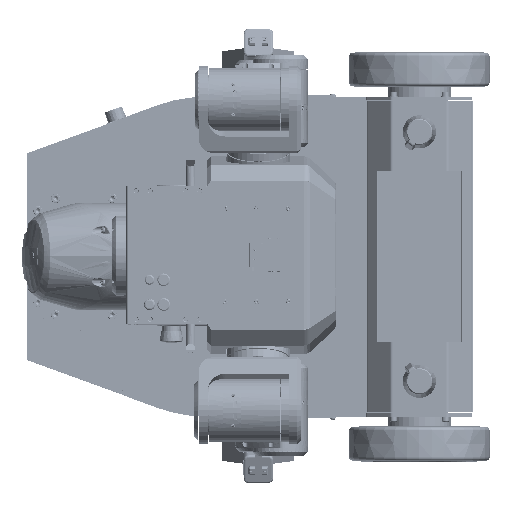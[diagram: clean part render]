
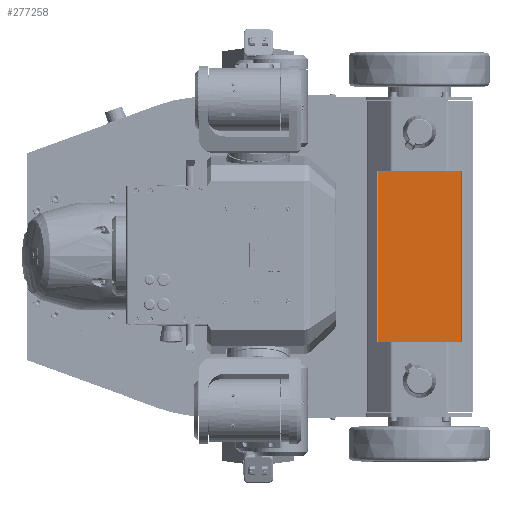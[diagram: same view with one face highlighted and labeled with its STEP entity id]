
A CAD part, top view. The second image highlights one B-rep face of the part: STEP entity #277258.
In plain terms, the highlighted planar face has unit normal (0, 0, 1).
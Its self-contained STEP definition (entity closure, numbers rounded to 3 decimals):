
#12331=PLANE('',#296740);
#22860=FACE_OUTER_BOUND('',#39108,.T.);
#39108=EDGE_LOOP('',(#187633,#187634,#187635,#187636));
#55602=LINE('',#437364,#77113);
#55603=LINE('',#437366,#77114);
#55618=LINE('',#437407,#77129);
#57578=LINE('',#450629,#79089);
#77113=VECTOR('',#323834,1.);
#77114=VECTOR('',#323837,1.);
#77129=VECTOR('',#323872,1.);
#79089=VECTOR('',#330898,1.);
#111442=VERTEX_POINT('',#437328);
#111447=VERTEX_POINT('',#437338);
#111450=VERTEX_POINT('',#437345);
#111451=VERTEX_POINT('',#437348);
#138497=EDGE_CURVE('',#111442,#111450,#55602,.T.);
#138498=EDGE_CURVE('',#111447,#111451,#55603,.T.);
#138519=EDGE_CURVE('',#111451,#111450,#55618,.T.);
#142164=EDGE_CURVE('',#111442,#111447,#57578,.T.);
#187633=ORIENTED_EDGE('',*,*,#138519,.F.);
#187634=ORIENTED_EDGE('',*,*,#138498,.F.);
#187635=ORIENTED_EDGE('',*,*,#142164,.F.);
#187636=ORIENTED_EDGE('',*,*,#138497,.T.);
#277258=ADVANCED_FACE('',(#22860),#12331,.F.);
#296740=AXIS2_PLACEMENT_3D('',#451170,#331036,#331037);
#323834=DIRECTION('',(0.,1.,0.));
#323837=DIRECTION('',(0.,1.,0.));
#323872=DIRECTION('',(1.,0.,0.));
#330898=DIRECTION('',(-1.,0.,0.));
#331036=DIRECTION('center_axis',(0.,0.,
-1.));
#331037=DIRECTION('ref_axis',(0.,-1.,0.));
#437328=CARTESIAN_POINT('',(534.149,-120.5,-89.349));
#437338=CARTESIAN_POINT('',(415.851,-120.5,-89.349));
#437345=CARTESIAN_POINT('',(534.148,120.5,-89.349));
#437348=CARTESIAN_POINT('',(415.852,120.5,-89.349));
#437364=CARTESIAN_POINT('',(534.149,-60.25,-89.349));
#437366=CARTESIAN_POINT('',(415.851,-60.25,-89.349));
#437407=CARTESIAN_POINT('',(474.999,120.5,-89.349));
#450629=CARTESIAN_POINT('',(474.999,-120.5,-89.349));
#451170=CARTESIAN_POINT('Origin',(474.999,0.,
-89.349));
